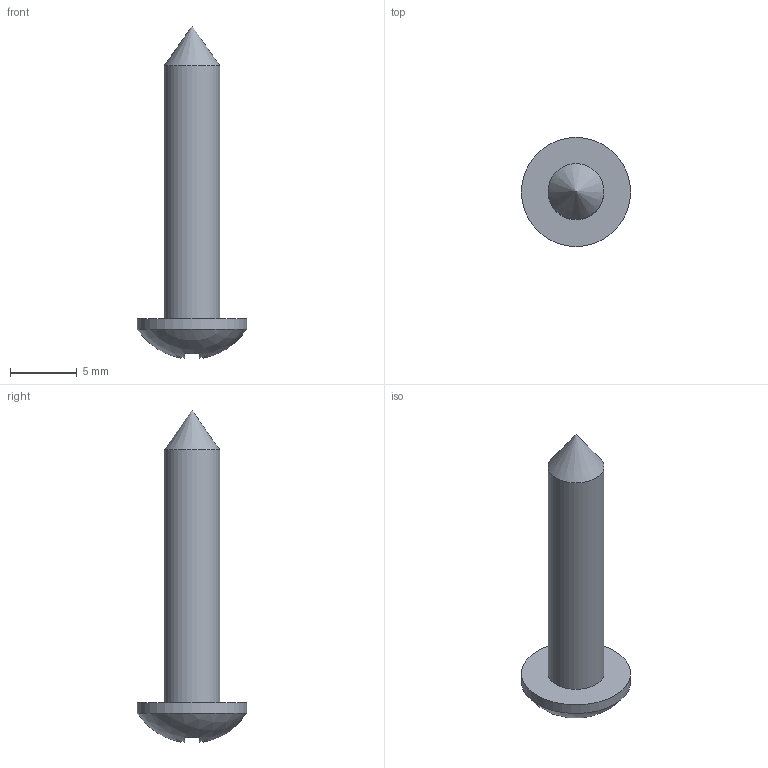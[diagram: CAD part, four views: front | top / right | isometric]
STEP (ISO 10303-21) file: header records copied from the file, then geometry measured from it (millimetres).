
FILE_DESCRIPTION (( 'STEP AP214' ), '1' );
FILE_NAME ('F10386.step', '2024-12-03T16:14:36', ( '' ), ( '' ), 'SwSTEP 2.0', 'SolidWorks 2023', '' );
FILE_SCHEMA (( 'AUTOMOTIVE_DESIGN' ));
Length unit declared in the file: millimetre
Products named in the file (1): F10386
Bounding box: 8.2 x 8.2 x 24.94 mm (x, y, z)
Volume: 376.4 mm3; surface area: 417.3 mm2
Topology: 1 solids, 1 shells, 30 faces, 80 edges, 53 vertices
Faces by surface type: plane 26, cylinder 2, sphere 1, cone 1
Full cylindrical faces by diameter (mm): 4.2 x1, 8.2 x1
Entity records: 939 total; most frequent: DIRECTION 162, CARTESIAN_POINT 159, ORIENTED_EDGE 152, EDGE_CURVE 76, AXIS2_PLACEMENT_3D 55, VECTOR 52, LINE 52, VERTEX_POINT 52
